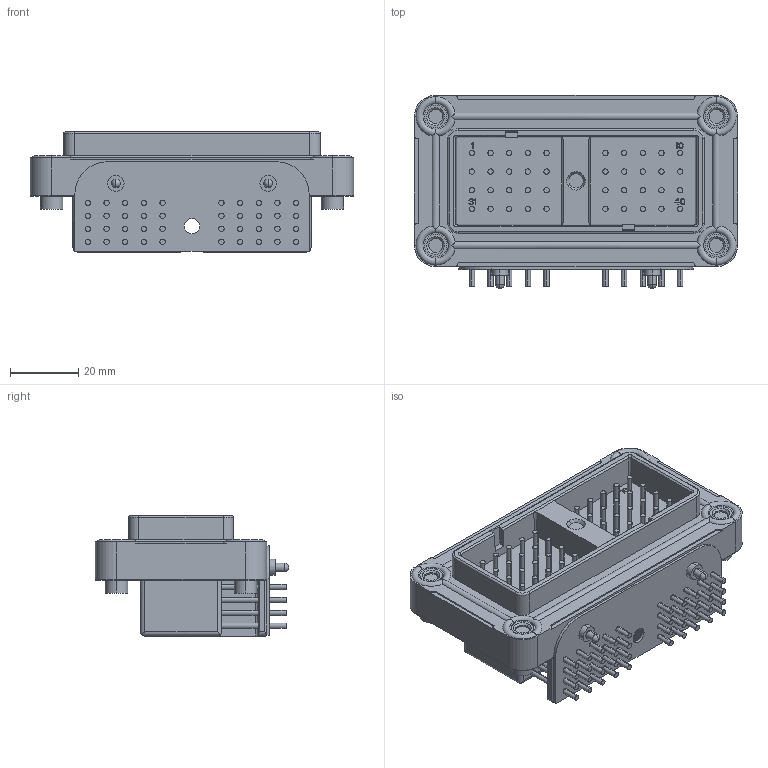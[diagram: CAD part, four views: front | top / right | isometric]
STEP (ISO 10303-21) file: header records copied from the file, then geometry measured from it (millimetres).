
FILE_DESCRIPTION((''),'2;1');
FILE_NAME('C-DRC13-40PA-G002','2013-05-25T',('workeradm'),('Tyco Electronics Ltd.'),'PRO/ENGINEER BY PARAMETRIC TECHNOLOGY CORPORATION, 2011490','PRO/ENGINEER BY PARAMETRIC TECHNOLOGY CORPORATION, 2011490','');
FILE_SCHEMA(('AUTOMOTIVE_DESIGN { 1 0 10303 214 1 1 1 1 }'));
Length unit declared in the file: millimetre
Products named in the file (1): C-DRC13-40PA-G002
Bounding box: 95.05 x 56.9 x 35.31 mm (x, y, z)
Volume: 88710 mm3; surface area: 27208.4 mm2
Topology: 1 solids, 1 shells, 776 faces, 1947 edges, 1278 vertices
Faces by surface type: plane 374, cylinder 353, torus 24, cone 19, sphere 4, bspline 2
Entity records: 25831 total; most frequent: CARTESIAN_POINT 6165, DIRECTION 4149, ORIENTED_EDGE 3886, EDGE_CURVE 1943, AXIS2_PLACEMENT_3D 1504, VERTEX_POINT 1278, VECTOR 1141, LINE 1141
